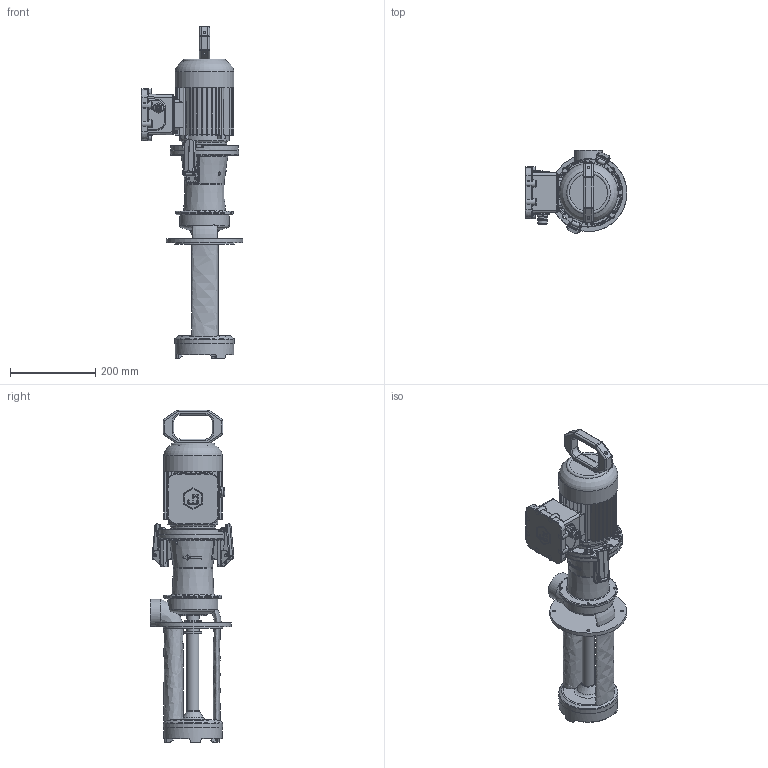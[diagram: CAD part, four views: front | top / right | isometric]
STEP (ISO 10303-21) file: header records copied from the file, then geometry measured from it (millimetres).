
FILE_DESCRIPTION(/* description */ ('Unknown'),/* implementation_level */ '2;1');
FILE_NAME(/* name */ 'EP EX 150-270',/* time_stamp */ '2025-05-30T16:22:58+03:00',/* author */ ('Unknown'),/* organization */ ('Unknown'),/* preprocessor_version */ 'ST-DEVELOPER v16.7',/* originating_system */ 'DEX',/* authorisation */ $);
FILE_SCHEMA (('AUTOMOTIVE_DESIGN {1 0 10303 214 3 1 1}'));
Length unit declared in the file: millimetre
Products named in the file (1): EP EX 150-270
Bounding box: 238.5 x 195.43 x 777.21 mm (x, y, z)
Volume: 6690616.8 mm3; surface area: 693832.3 mm2
Topology: 2 solids, 10 shells, 2376 faces, 6461 edges, 4009 vertices
Faces by surface type: cylinder 897, plane 741, bspline 368, torus 201, cone 90, sphere 79
Full cylindrical faces by diameter (mm): 3 x12, 3.242 x12, 4 x14, 4.134 x24, 4.9 x4, 5 x86, 5.3 x4, 5.5 x2, 5.7 x8, 6 x8, 7 x8, 8 x3, 9.5 x8, 10 x8, 12 x1, 13 x2, 13.962 x1, 16 x1, 18.376 x5, 20 x1, 21.8 x2, 28 x1, 29 x3, 30 x1, 42 x2, 44 x1, 48 x1, 62 x1, 94 x1, 102 x1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
Entity records: 113401 total; most frequent: CARTESIAN_POINT 43043, ORIENTED_EDGE 11576, DIRECTION 10828, EDGE_CURVE 5788, AXIS2_PLACEMENT_3D 4274, VERTEX_POINT 3794, FACE_BOUND 2816, EDGE_LOOP 2808
